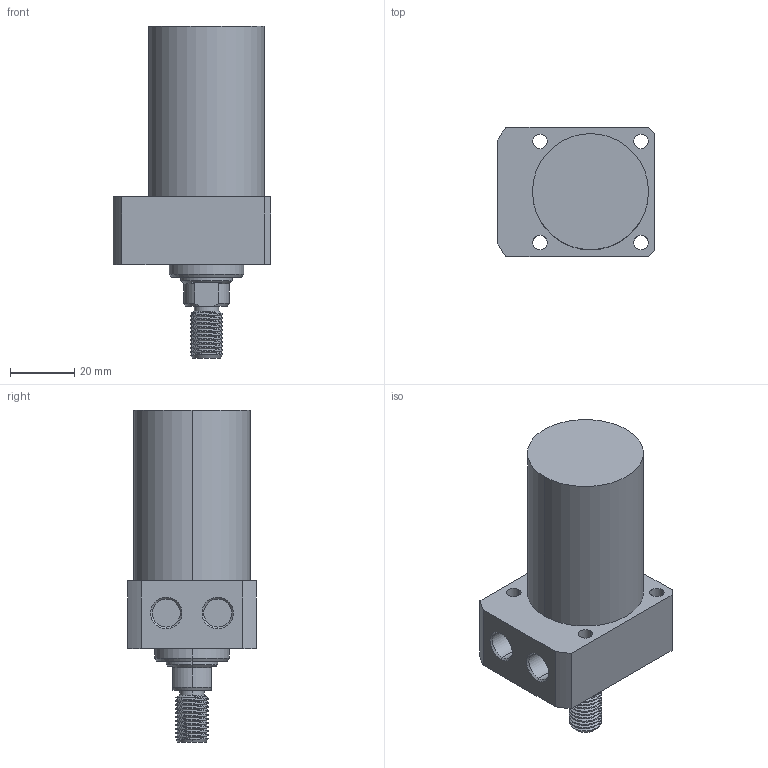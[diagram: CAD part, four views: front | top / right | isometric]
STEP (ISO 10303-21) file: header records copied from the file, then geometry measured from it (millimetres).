
FILE_DESCRIPTION (( 'STEP AP214' ), '1' );
FILE_NAME ('CLLR-036CT-045.STEP', '2020-01-08T10:24:03', ( 'Windows' ), ( 'Microsoft' ), 'SwSTEP 2.0', 'SolidWorks 2015', '' );
FILE_SCHEMA (( 'AUTOMOTIVE_DESIGN' ));
Length unit declared in the file: millimetre
Products named in the file (1): CLLR-036CT-045
Bounding box: 49 x 40 x 103 mm (x, y, z)
Volume: 95978 mm3; surface area: 16646.7 mm2
Topology: 1 solids, 1 shells, 89 faces, 223 edges, 144 vertices
Faces by surface type: cylinder 51, plane 21, cone 15, bspline 2
Entity records: 3965 total; most frequent: CARTESIAN_POINT 1831, ORIENTED_EDGE 446, DIRECTION 419, EDGE_CURVE 223, AXIS2_PLACEMENT_3D 164, VERTEX_POINT 144, EDGE_LOOP 105, VECTOR 91
